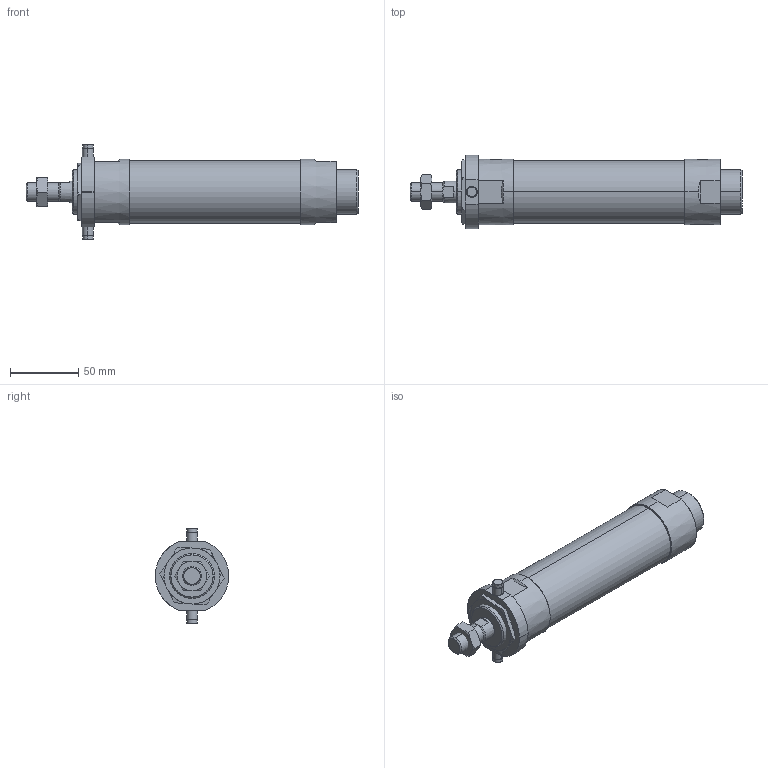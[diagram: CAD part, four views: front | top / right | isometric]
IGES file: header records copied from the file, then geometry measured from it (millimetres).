
Start section: SolidWorks IGES file using analytic representation for surfaces
Global section: file name: C:\Users\Toshiba\Desktop\J#2-40-75-T.IGS; native system: SolidWorks 2014; preprocessor: SolidWorks 2014; author: Toshiba; date: 160308.155646; units: millimetre
Bounding box: 244 x 54 x 70 mm (x, y, z)
Surface area: 45109.9 mm2 (no closed solid volume)
Topology: 0 solids, 0 shells, 121 faces, 2282 edges, 2278 vertices
Faces by surface type: bspline 63, revolution 58
